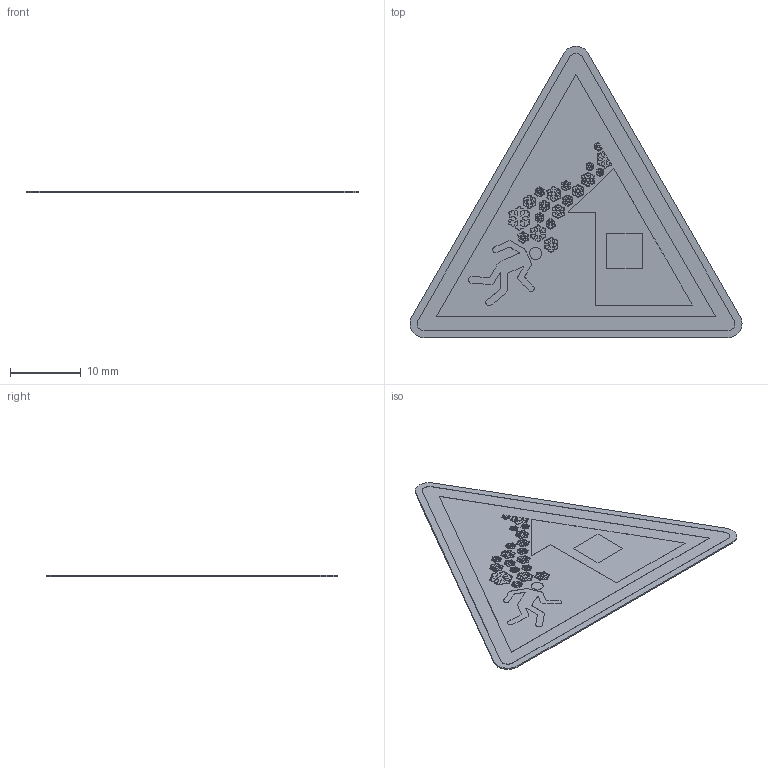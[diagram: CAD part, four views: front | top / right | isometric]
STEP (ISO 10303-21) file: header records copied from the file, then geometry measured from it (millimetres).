
FILE_DESCRIPTION (( 'STEP AP214' ), '1' );
FILE_NAME ('W040_Warnung vor Dachlawine.STEP', '2022-03-03T14:11:41', ( '' ), ( '' ), 'SwSTEP 2.0', 'SolidWorks 2021', '' );
FILE_SCHEMA (( 'AUTOMOTIVE_DESIGN' ));
Length unit declared in the file: millimetre
Products named in the file (1): W040_Warnung vor Dachlawine
Bounding box: 47.07 x 41.3 x 0.22 mm (x, y, z)
Volume: 221.9 mm3; surface area: 2185.9 mm2
Topology: 1 solids, 1 shells, 1785 faces, 5274 edges, 3516 vertices
Faces by surface type: plane 1324, cylinder 461
Entity records: 78769 total; most frequent: CARTESIAN_POINT 10576, ORIENTED_EDGE 10548, DIRECTION 9768, EDGE_CURVE 5274, VECTOR 4352, LINE 4352, VERTEX_POINT 3516, AXIS2_PLACEMENT_3D 2708
